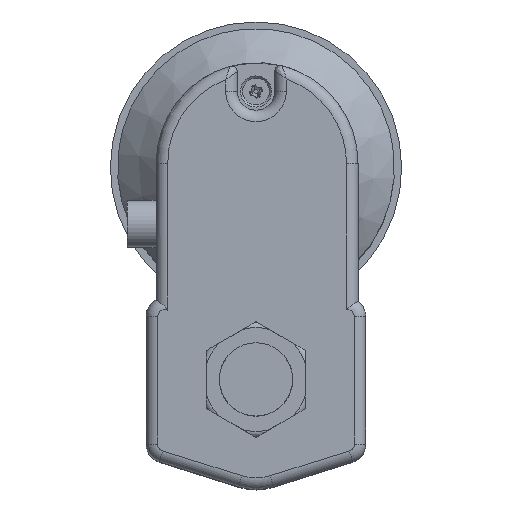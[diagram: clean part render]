
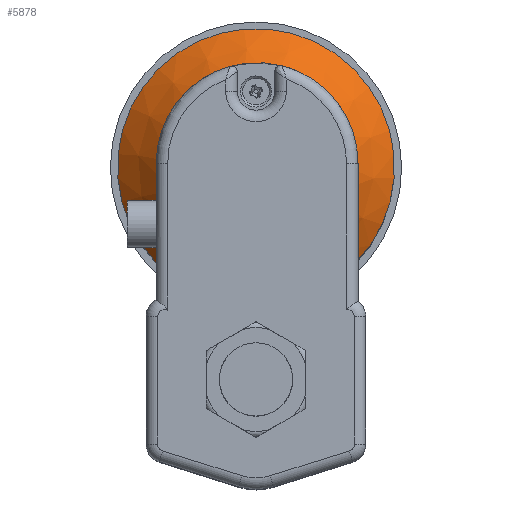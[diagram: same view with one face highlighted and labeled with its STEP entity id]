
A CAD part, top view. The second image highlights one B-rep face of the part: STEP entity #5878.
In plain terms, the highlighted conical face has half-angle 45 degrees and reference radius 48 mm.
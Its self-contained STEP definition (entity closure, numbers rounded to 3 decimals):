
#275 = EDGE_CURVE ( 'NONE', #5488, #5488, #1551, .T. ) ;
#276 = EDGE_CURVE ( 'NONE', #399, #432, #3423, .T. ) ;
#280 = EDGE_CURVE ( 'NONE', #432, #399, #1556, .T. ) ;
#399 = VERTEX_POINT ( 'NONE', #4209 ) ;
#432 = VERTEX_POINT ( 'NONE', #4242 ) ;
#474 = CONICAL_SURFACE ( 'NONE', #2871, 48., 0.785 ) ;
#476 = FACE_BOUND ( 'NONE', #1777, .T. ) ;
#479 = FACE_OUTER_BOUND ( 'NONE', #1827, .T. ) ;
#851 = AXIS2_PLACEMENT_3D ( 'NONE', #3975, #4027, #4028 ) ;
#854 = AXIS2_PLACEMENT_3D ( 'NONE', #3966, #3973, #3974 ) ;
#1551 = CIRCLE ( 'NONE', #854, 34. ) ;
#1556 = CIRCLE ( 'NONE', #851, 48. ) ;
#1656 = ORIENTED_EDGE ( 'NONE', *, *, #276, .T. ) ;
#1690 = ORIENTED_EDGE ( 'NONE', *, *, #275, .F. ) ;
#1710 = ORIENTED_EDGE ( 'NONE', *, *, #280, .T. ) ;
#1777 = EDGE_LOOP ( 'NONE', ( #1690 ) ) ;
#1827 = EDGE_LOOP ( 'NONE', ( #1710, #1656 ) ) ;
#2871 = AXIS2_PLACEMENT_3D ( 'NONE', #5023, #5027, #5026 ) ;
#3423 = B_SPLINE_CURVE_WITH_KNOTS ( 'NONE', 3,
 ( #3972, #3969, #3977, #3978, #3979, #3980, #3981, #3982, #3983, #3984, #3985, #3986, #3987, #3988, #3989, #3990, #3991, #3992, #3993, #3994, #3995, #3996, #3997, #3998, #3999, #4000 ),
 .UNSPECIFIED., .F., .F.,
 ( 4, 2, 2, 2, 2, 2, 2, 2, 2, 2, 2, 2, 4 ),
 ( 0., 0.004, 0.007, 0.015, 0.018, 0.022, 0.026, 0.029, 0.037, 0.04, 0.044, 0.051, 0.059 ),
 .UNSPECIFIED. ) ;
#3966 = CARTESIAN_POINT ( 'NONE',  ( 0., 73.9, 67.5 ) ) ;
#3969 = CARTESIAN_POINT ( 'NONE',  ( -26.826, 34.768, 54.065 ) ) ;
#3972 = CARTESIAN_POINT ( 'NONE',  ( -27.908, 34.847, 53.5 ) ) ;
#3973 = DIRECTION ( 'NONE',  ( 0., 0., 1. ) ) ;
#3974 = DIRECTION ( 'NONE',  ( 0., -1., 0. ) ) ;
#3975 = CARTESIAN_POINT ( 'NONE',  ( 0., 73.9, 53.5 ) ) ;
#3977 = CARTESIAN_POINT ( 'NONE',  ( -25.733, 34.688, 54.609 ) ) ;
#3978 = CARTESIAN_POINT ( 'NONE',  ( -23.531, 34.53, 55.644 ) ) ;
#3979 = CARTESIAN_POINT ( 'NONE',  ( -22.421, 34.452, 56.137 ) ) ;
#3980 = CARTESIAN_POINT ( 'NONE',  ( -19.06, 34.223, 57.53 ) ) ;
#3981 = CARTESIAN_POINT ( 'NONE',  ( -16.779, 34.077, 58.344 ) ) ;
#3982 = CARTESIAN_POINT ( 'NONE',  ( -13.28, 33.887, 59.356 ) ) ;
#3983 = CARTESIAN_POINT ( 'NONE',  ( -12.101, 33.829, 59.657 ) ) ;
#3984 = CARTESIAN_POINT ( 'NONE',  ( -9.715, 33.725, 60.183 ) ) ;
#3985 = CARTESIAN_POINT ( 'NONE',  ( -8.505, 33.679, 60.407 ) ) ;
#3986 = CARTESIAN_POINT ( 'NONE',  ( -6.081, 33.605, 60.767 ) ) ;
#3987 = CARTESIAN_POINT ( 'NONE',  ( -4.863, 33.577, 60.903 ) ) ;
#3988 = CARTESIAN_POINT ( 'NONE',  ( -2.415, 33.538, 61.085 ) ) ;
#3989 = CARTESIAN_POINT ( 'NONE',  ( -1.188, 33.529, 61.13 ) ) ;
#3990 = CARTESIAN_POINT ( 'NONE',  ( 2.477, 33.529, 61.127 ) ) ;
#3991 = CARTESIAN_POINT ( 'NONE',  ( 4.908, 33.569, 60.942 ) ) ;
#3992 = CARTESIAN_POINT ( 'NONE',  ( 8.537, 33.68, 60.402 ) ) ;
#3993 = CARTESIAN_POINT ( 'NONE',  ( 9.746, 33.726, 60.177 ) ) ;
#3994 = CARTESIAN_POINT ( 'NONE',  ( 12.13, 33.83, 59.65 ) ) ;
#3995 = CARTESIAN_POINT ( 'NONE',  ( 13.307, 33.888, 59.348 ) ) ;
#3996 = CARTESIAN_POINT ( 'NONE',  ( 16.801, 34.078, 58.337 ) ) ;
#3997 = CARTESIAN_POINT ( 'NONE',  ( 19.078, 34.224, 57.523 ) ) ;
#3998 = CARTESIAN_POINT ( 'NONE',  ( 23.55, 34.529, 55.668 ) ) ;
#3999 = CARTESIAN_POINT ( 'NONE',  ( 25.745, 34.688, 54.629 ) ) ;
#4000 = CARTESIAN_POINT ( 'NONE',  ( 27.908, 34.847, 53.5 ) ) ;
#4027 = DIRECTION ( 'NONE',  ( 0., 0., 1. ) ) ;
#4028 = DIRECTION ( 'NONE',  ( 0., -1., 0. ) ) ;
#4209 = CARTESIAN_POINT ( 'NONE',  ( -27.908, 34.847, 53.5 ) ) ;
#4242 = CARTESIAN_POINT ( 'NONE',  ( 27.908, 34.847, 53.5 ) ) ;
#5023 = CARTESIAN_POINT ( 'NONE',  ( 0., 73.9, 53.5 ) ) ;
#5026 = DIRECTION ( 'NONE',  ( 0., 1., 0. ) ) ;
#5027 = DIRECTION ( 'NONE',  ( 0., 0., -1. ) ) ;
#5488 = VERTEX_POINT ( 'NONE', #5489 ) ;
#5489 = CARTESIAN_POINT ( 'NONE',  ( 0., 39.9, 67.5 ) ) ;
#5878 = ADVANCED_FACE ( 'NONE', ( #476, #479 ), #474, .T. ) ;
